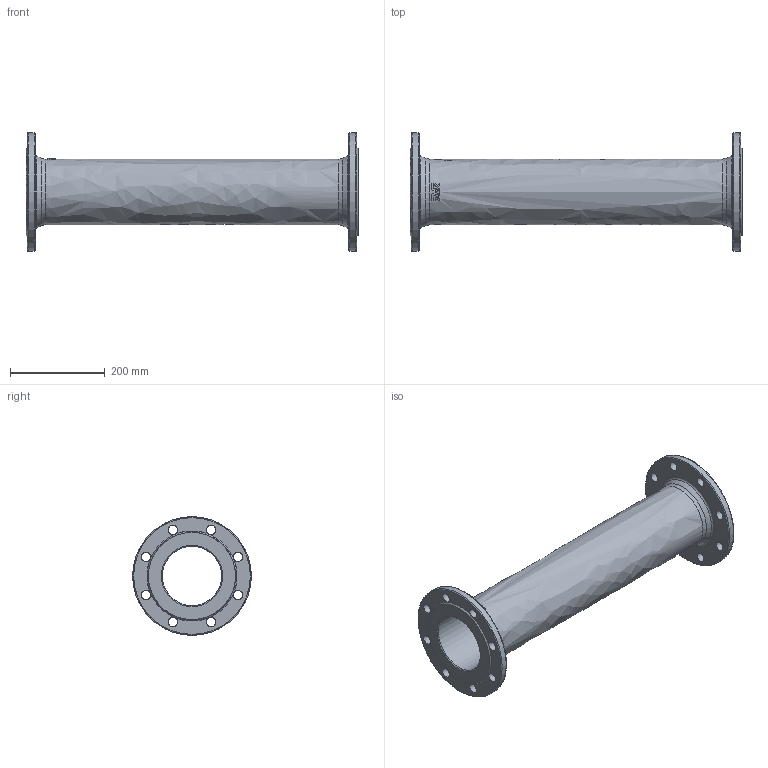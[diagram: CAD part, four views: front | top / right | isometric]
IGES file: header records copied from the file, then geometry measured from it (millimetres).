
Start section: SolidWorks IGES file using analytic representation for surfaces
Global section: file name: \\avksan2\techshare\PBM outline export from Enovia\O_712_5010_DN125_1X_REV01.igs; native system: SolidWorks 2019; preprocessor: SolidWorks 2019; author: pbm; date: 211203.104014; units: millimetre
Bounding box: 700 x 250 x 250 mm (x, y, z)
Surface area: 729162.1 mm2 (no closed solid volume)
Topology: 0 solids, 0 shells, 81 faces, 420 edges, 369 vertices
Faces by surface type: bspline 43, revolution 38
